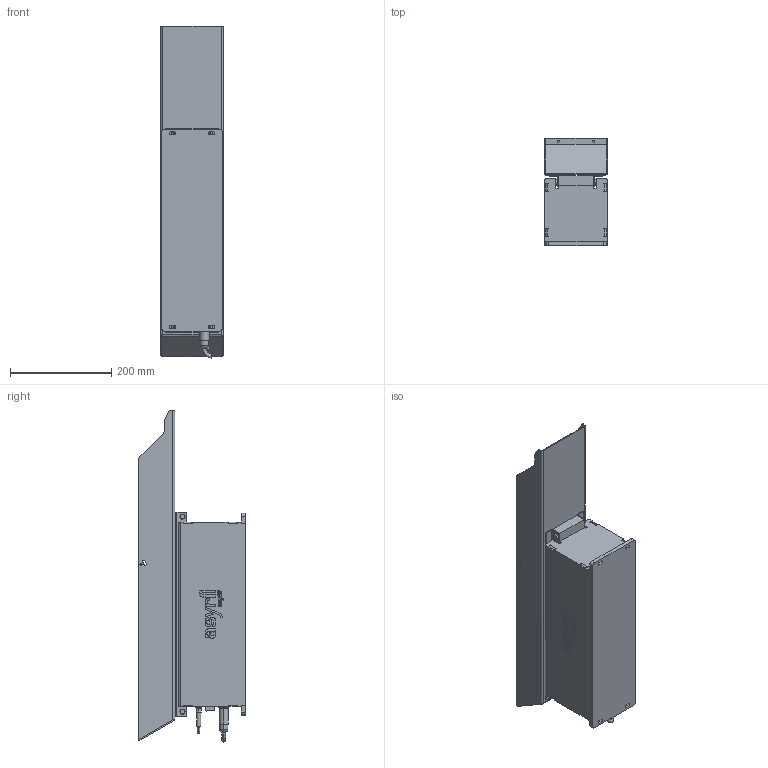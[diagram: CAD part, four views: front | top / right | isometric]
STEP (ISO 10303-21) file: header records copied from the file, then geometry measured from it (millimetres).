
FILE_DESCRIPTION (( 'STEP AP214' ), '1' );
FILE_NAME ('Asyril_ASYFILL_M_3L.STEP', '2023-05-09T11:05:33', ( '%MACHINENAME%' ), ( 'CPA-GROUP.LOCAL' ), 'SwSTEP 2.0', 'SolidWorks 2019', '' );
FILE_SCHEMA (( 'AUTOMOTIVE_DESIGN' ));
Length unit declared in the file: millimetre
Products named in the file (5): Asyril_3 LITER ASYFILL CONTAINER_000.105.376_(option); Asyril_FEMALE STRAIGHT 5P 5m M16 POWER CABLE_900.006.215_(option)-1; Asyril_ASYFILL M_000.105.374; Asyril_FEMALE STRAIGHT 4P Xm M08 MOLDED CABLE_XXX.XXX.XXX_(option); Asyril_ASYFILL_M_3L
Assembly tree (4 placements, depth 2):
  Asyril_ASYFILL_M_3L
    Asyril_ASYFILL M_000.105.374
    Asyril_3 LITER ASYFILL CONTAINER_000.105.376_(option)
    Asyril_FEMALE STRAIGHT 5P 5m M16 POWER CABLE_900.006.215_(option)-1
    Asyril_FEMALE STRAIGHT 4P Xm M08 MOLDED CABLE_XXX.XXX.XXX_(option)
Bounding box: 124.02 x 211.49 x 655.85 mm (x, y, z)
Volume: 6510120.1 mm3; surface area: 658340.7 mm2
Topology: 38 solids, 39 shells, 923 faces, 2335 edges, 1514 vertices
Faces by surface type: plane 478, cylinder 238, bspline 169, cone 17, torus 13, sphere 8
Entity records: 32350 total; most frequent: CARTESIAN_POINT 8193, ORIENTED_EDGE 4618, DIRECTION 3879, EDGE_CURVE 2309, VERTEX_POINT 1506, LINE 1373, VECTOR 1373, AXIS2_PLACEMENT_3D 1253
